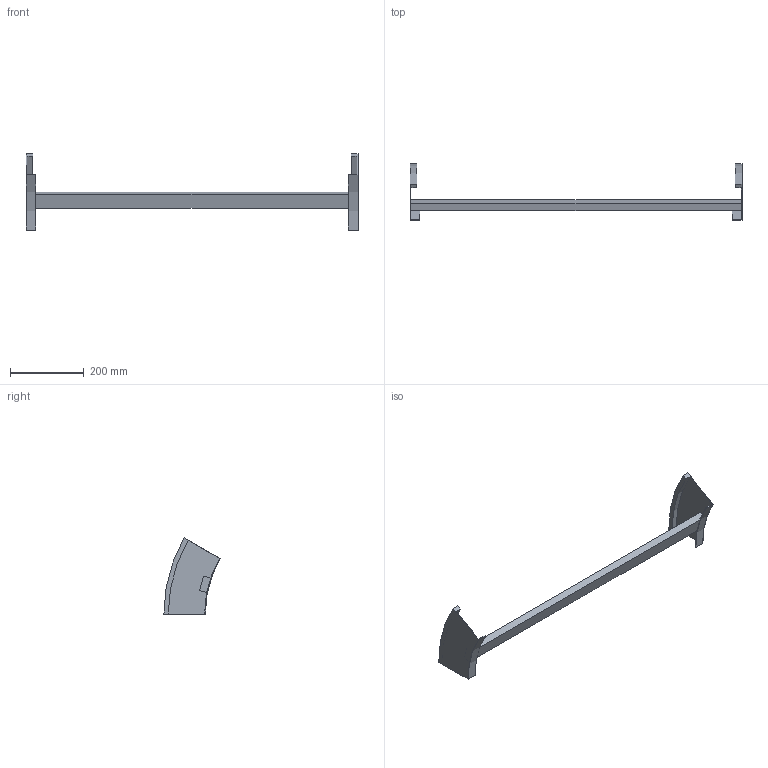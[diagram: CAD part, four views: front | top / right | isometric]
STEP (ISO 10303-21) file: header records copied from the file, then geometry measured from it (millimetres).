
FILE_DESCRIPTION (( 'STEP AP214' ), '1' );
FILE_NAME ('B2_35B3J900.step', '2025-02-21T14:49:01', ( '' ), ( '' ), 'SwSTEP 2.0', 'SolidWorks 2023', '' );
FILE_SCHEMA (( 'AUTOMOTIVE_DESIGN' ));
Length unit declared in the file: millimetre
Products named in the file (3): B2_LONGH.DISCESA_30°_H112.5_R300; TRAVERSINO_900; B2_35B3J900
Assembly tree (3 placements, depth 2):
  B2_35B3J900
    B2_LONGH.DISCESA_30°_H112.5_R300  x2
    TRAVERSINO_900
Bounding box: 900 x 152.69 x 206.25 mm (x, y, z)
Volume: 907191.4 mm3; surface area: 226718 mm2
Topology: 3 solids, 3 shells, 26 faces, 60 edges, 40 vertices
Faces by surface type: plane 18, cylinder 8
Entity records: 544 total; most frequent: DIRECTION 88, CARTESIAN_POINT 82, ORIENTED_EDGE 72, EDGE_CURVE 36, AXIS2_PLACEMENT_3D 30, VECTOR 28, LINE 28, VERTEX_POINT 24
